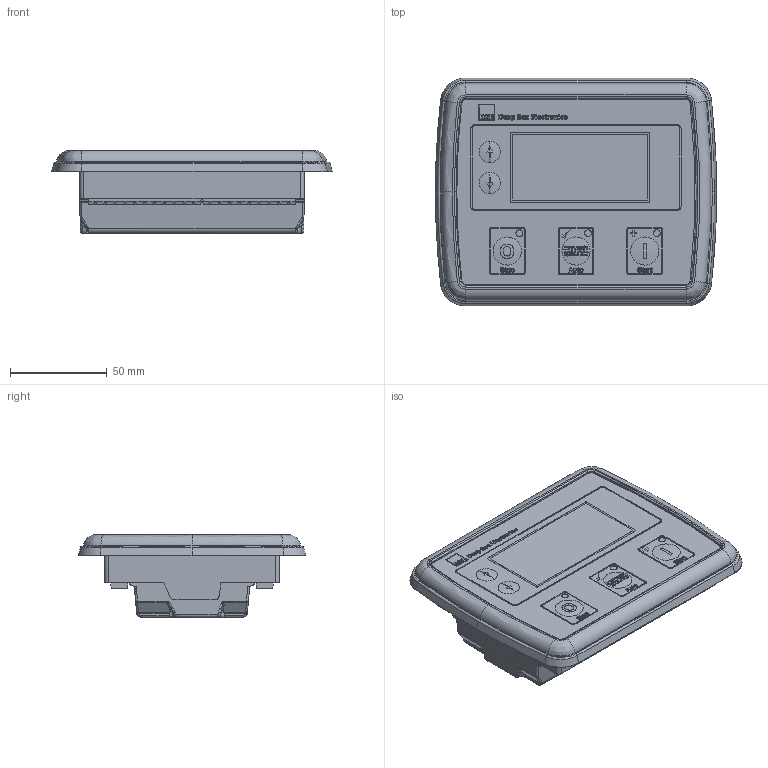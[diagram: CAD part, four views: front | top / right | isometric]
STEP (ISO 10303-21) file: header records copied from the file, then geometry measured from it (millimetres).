
FILE_DESCRIPTION (( 'STEP AP214' ), '1' );
FILE_NAME ('DSE-L401.STEP', '2021-06-14T13:53:01', ( '' ), ( '' ), 'SwSTEP 2.0', 'SolidWorks 2020', '' );
FILE_SCHEMA (( 'AUTOMOTIVE_DESIGN' ));
Length unit declared in the file: millimetre
Products named in the file (1): DSE-L401
Bounding box: 145.22 x 117.72 x 42.6 mm (x, y, z)
Volume: 415583.2 mm3; surface area: 52892.9 mm2
Topology: 1 solids, 4 shells, 2092 faces, 5500 edges, 3546 vertices
Faces by surface type: plane 1162, bspline 712, cylinder 113, cone 70, sphere 20, torus 15
Entity records: 82870 total; most frequent: CARTESIAN_POINT 36902, ORIENTED_EDGE 10994, DIRECTION 6830, EDGE_CURVE 5497, VERTEX_POINT 3546, VECTOR 3310, LINE 3310, EDGE_LOOP 2225
